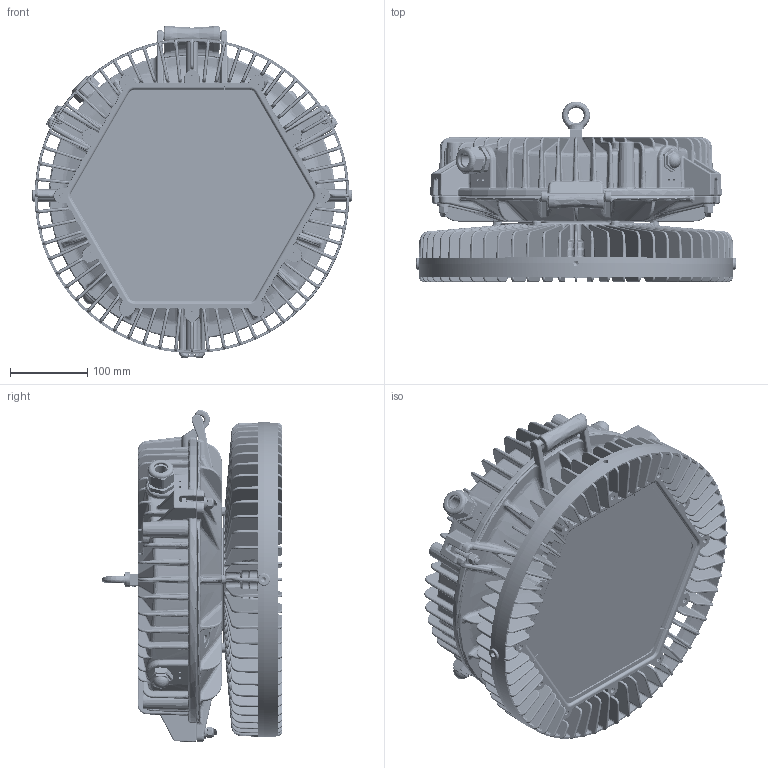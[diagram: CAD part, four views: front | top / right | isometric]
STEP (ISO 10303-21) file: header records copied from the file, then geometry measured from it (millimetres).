
FILE_DESCRIPTION((''),'2;1');
FILE_NAME('EHBBX_ASM','2023-10-23T11:30:14',('NSharma'),(''),'CREO PARAMETRIC BY PTC INC, 2021304','CREO PARAMETRIC BY PTC INC, 2021304','');
FILE_SCHEMA(('CONFIG_CONTROL_DESIGN'));
Products named in the file (28): 3998EHB000105; 3098HIB000807_AF0; 8800EHB300100_ASM; 4700HIB001500; 3998HIB000807; 3867T67_HIGH-PRESSURE_ALUMINUM__AF0; 3900657000207_AF0; 8800657140200_AF0; 8800657140X00; 880065714XX00_AF0_ASM; 3900HIB002300; EPSS211C_INDICATOR_PLUG_ASM; 6298OBS100075; 6000HIB009400; 6000HBA0007EX; 8800HIB007699_ASM; 6200860000103; 93635A336_316_STAINLESS_STEEL_H; 8300HZA000100; 8100HZA000300; 4900HZA000100; 4700HIB0012EX; 2600HIB002200; HSK_K_1_209_3400_71_GLAND; HSK_K_1_209_3400_71S; HSK_K_1_209_3400_71_NUT; 1900HIB001000_ASM; EHBBX_ASM
Assembly tree (39 placements, depth 4):
  EHBBX_ASM
    3998EHB000105
    8800EHB300100_ASM
      3098HIB000807_AF0
    4700HIB001500
    3998HIB000807
    EPSS211C_INDICATOR_PLUG_ASM  x2
      3867T67_HIGH-PRESSURE_ALUMINUM__AF0
      3900657000207_AF0
      880065714XX00_AF0_ASM
        8800657140200_AF0
        8800657140X00
      3900HIB002300
    8800HIB007699_ASM
      6298OBS100075
      6000HIB009400
      6000HBA0007EX
    6200860000103  x2
    93635A336_316_STAINLESS_STEEL_H  x3
    8300HZA000100  x3
    8100HZA000300  x3
    4900HZA000100  x3
    4700HIB0012EX
    2600HIB002200  x3
    1900HIB001000_ASM
      HSK_K_1_209_3400_71_GLAND
      HSK_K_1_209_3400_71S
      HSK_K_1_209_3400_71_NUT
Bounding box: 412.75 x 233.23 x 428.81 mm (x, y, z)
Volume: 4547061.3 mm3; surface area: 2106588 mm2
Topology: 41 solids, 90 shells, 21552 faces, 54856 edges, 33790 vertices
Faces by surface type: plane 8712, bspline 5593, cylinder 3936, cone 1239, extrusion 1186, torus 685, sphere 201
Entity records: 827070 total; most frequent: CARTESIAN_POINT 465912, ORIENTED_EDGE 84835, DIRECTION 60321, EDGE_CURVE 42509, VERTEX_POINT 25748, AXIS2_PLACEMENT_3D 20581, VECTOR 19159, LINE 18554
